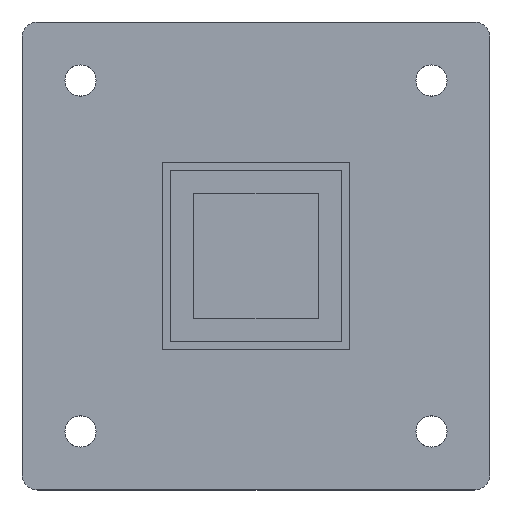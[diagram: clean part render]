
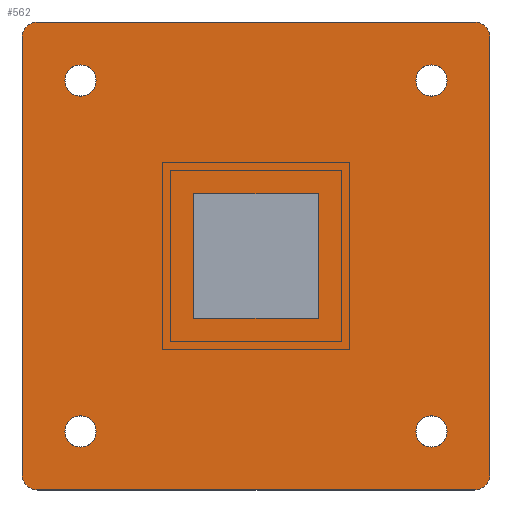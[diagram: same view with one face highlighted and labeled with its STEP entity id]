
A CAD part, top view. The second image highlights one B-rep face of the part: STEP entity #562.
In plain terms, the highlighted planar face has unit normal (0, 0, 1).
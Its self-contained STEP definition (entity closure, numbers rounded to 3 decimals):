
#266 = EDGE_CURVE( '', #288, #434, #732, .T. );
#280 = EDGE_CURVE( '', #306, #288, #746, .T. );
#288 = VERTEX_POINT( '', #755 );
#296 = EDGE_CURVE( '', #332, #306, #763, .T. );
#298 = EDGE_CURVE( '', #384, #570, #765, .T. );
#306 = VERTEX_POINT( '', #773 );
#324 = EDGE_CURVE( '', #548, #538, #794, .T. );
#328 = EDGE_CURVE( '', #362, #332, #798, .T. );
#332 = VERTEX_POINT( '', #802 );
#356 = EDGE_CURVE( '', #374, #362, #831, .T. );
#362 = VERTEX_POINT( '', #837 );
#372 = EDGE_CURVE( '', #396, #374, #848, .T. );
#374 = VERTEX_POINT( '', #850 );
#384 = VERTEX_POINT( '', #862 );
#386 = EDGE_CURVE( '', #430, #396, #864, .T. );
#392 = EDGE_CURVE( '', #534, #590, #870, .T. );
#396 = VERTEX_POINT( '', #874 );
#406 = EDGE_CURVE( '', #416, #532, #886, .T. );
#416 = VERTEX_POINT( '', #897 );
#422 = EDGE_CURVE( '', #434, #430, #904, .T. );
#430 = VERTEX_POINT( '', #913 );
#434 = VERTEX_POINT( '', #917 );
#444 = EDGE_CURVE( '', #538, #548, #929, .T. );
#446 = EDGE_CURVE( '', #590, #534, #931, .T. );
#454 = EDGE_CURVE( '', #532, #416, #939, .T. );
#462 = EDGE_CURVE( '', #570, #384, #948, .T. );
#470 = EDGE_CURVE( '', #490, #594, #956, .T. );
#486 = EDGE_CURVE( '', #528, #490, #972, .T. );
#490 = VERTEX_POINT( '', #976 );
#522 = EDGE_CURVE( '', #588, #528, #1011, .T. );
#528 = VERTEX_POINT( '', #1017 );
#532 = VERTEX_POINT( '', #1022 );
#534 = VERTEX_POINT( '', #1024 );
#538 = VERTEX_POINT( '', #1028 );
#548 = VERTEX_POINT( '', #1039 );
#562 = ADVANCED_FACE( '', ( #1053, #1054, #1055, #1056, #1057, #1058 ), #1059, .T. );
#570 = VERTEX_POINT( '', #1068 );
#586 = EDGE_CURVE( '', #594, #588, #1085, .T. );
#588 = VERTEX_POINT( '', #1087 );
#590 = VERTEX_POINT( '', #1089 );
#594 = VERTEX_POINT( '', #1094 );
#732 = CIRCLE( '', #1248, 2. );
#746 = LINE( '', #1271, #1272 );
#755 = CARTESIAN_POINT( '', ( -28., -30., 0. ) );
#763 = CIRCLE( '', #1297, 2. );
#765 = CIRCLE( '', #1300, 2. );
#773 = CARTESIAN_POINT( '', ( 28., -30., 0. ) );
#794 = CIRCLE( '', #1338, 2. );
#798 = LINE( '', #1345, #1346 );
#802 = CARTESIAN_POINT( '', ( 30., -28., 0. ) );
#831 = CIRCLE( '', #1388, 2. );
#837 = CARTESIAN_POINT( '', ( 30., 28., 0. ) );
#848 = LINE( '', #1416, #1417 );
#850 = CARTESIAN_POINT( '', ( 28., 30., 0. ) );
#862 = CARTESIAN_POINT( '', ( -24.5, 22.5, 0. ) );
#864 = CIRCLE( '', #1438, 2. );
#870 = CIRCLE( '', #1447, 2. );
#874 = CARTESIAN_POINT( '', ( -28., 30., 0. ) );
#886 = CIRCLE( '', #1468, 2. );
#897 = CARTESIAN_POINT( '', ( -24.5, -22.5, 0. ) );
#904 = LINE( '', #1493, #1494 );
#913 = CARTESIAN_POINT( '', ( -30., 28., 0. ) );
#917 = CARTESIAN_POINT( '', ( -30., -28., 0. ) );
#929 = CIRCLE( '', #1530, 2. );
#931 = CIRCLE( '', #1533, 2. );
#939 = CIRCLE( '', #1543, 2. );
#948 = CIRCLE( '', #1555, 2. );
#956 = LINE( '', #1570, #1571 );
#972 = LINE( '', #1594, #1595 );
#976 = CARTESIAN_POINT( '', ( 8., 8., 0. ) );
#1011 = LINE( '', #1653, #1654 );
#1017 = CARTESIAN_POINT( '', ( -8., 8., 0. ) );
#1022 = CARTESIAN_POINT( '', ( -20.5, -22.5, 0. ) );
#1024 = CARTESIAN_POINT( '', ( 20.5, 22.5, 0. ) );
#1028 = CARTESIAN_POINT( '', ( 24.5, -22.5, 0. ) );
#1039 = CARTESIAN_POINT( '', ( 20.5, -22.5, 0. ) );
#1053 = FACE_BOUND( '', #1707, .T. );
#1054 = FACE_OUTER_BOUND( '', #1708, .T. );
#1055 = FACE_BOUND( '', #1709, .T. );
#1056 = FACE_BOUND( '', #1710, .T. );
#1057 = FACE_BOUND( '', #1711, .T. );
#1058 = FACE_BOUND( '', #1712, .T. );
#1059 = PLANE( '', #1713 );
#1068 = CARTESIAN_POINT( '', ( -20.5, 22.5, 0. ) );
#1085 = LINE( '', #1750, #1751 );
#1087 = CARTESIAN_POINT( '', ( -8., -8., 0. ) );
#1089 = CARTESIAN_POINT( '', ( 24.5, 22.5, 0. ) );
#1094 = CARTESIAN_POINT( '', ( 8., -8., 0. ) );
#1248 = AXIS2_PLACEMENT_3D( '', #1937, #1938, #1939 );
#1271 = CARTESIAN_POINT( '', ( -28., -30., 0. ) );
#1272 = VECTOR( '', #1944, 1. );
#1297 = AXIS2_PLACEMENT_3D( '', #1959, #1960, #1961 );
#1300 = AXIS2_PLACEMENT_3D( '', #1962, #1963, #1964 );
#1338 = AXIS2_PLACEMENT_3D( '', #1989, #1990, #1991 );
#1345 = CARTESIAN_POINT( '', ( 30., -28., 0. ) );
#1346 = VECTOR( '', #1993, 1. );
#1388 = AXIS2_PLACEMENT_3D( '', #2034, #2035, #2036 );
#1416 = CARTESIAN_POINT( '', ( 28., 30., 0. ) );
#1417 = VECTOR( '', #2050, 1. );
#1438 = AXIS2_PLACEMENT_3D( '', #2069, #2070, #2071 );
#1447 = AXIS2_PLACEMENT_3D( '', #2073, #2074, #2075 );
#1468 = AXIS2_PLACEMENT_3D( '', #2094, #2095, #2096 );
#1493 = CARTESIAN_POINT( '', ( -30., 28., 0. ) );
#1494 = VECTOR( '', #2116, 1. );
#1530 = AXIS2_PLACEMENT_3D( '', #2146, #2147, #2148 );
#1533 = AXIS2_PLACEMENT_3D( '', #2149, #2150, #2151 );
#1543 = AXIS2_PLACEMENT_3D( '', #2155, #2156, #2157 );
#1555 = AXIS2_PLACEMENT_3D( '', #2167, #2168, #2169 );
#1570 = CARTESIAN_POINT( '', ( 8., 4., 0. ) );
#1571 = VECTOR( '', #2173, 1. );
#1594 = CARTESIAN_POINT( '', ( -4., 8., 0. ) );
#1595 = VECTOR( '', #2177, 1. );
#1653 = CARTESIAN_POINT( '', ( -8., -4., 0. ) );
#1654 = VECTOR( '', #2211, 1. );
#1707 = EDGE_LOOP( '', ( #2237, #2238, #2239, #2240 ) );
#1708 = EDGE_LOOP( '', ( #2241, #2242, #2243, #2244, #2245, #2246, #2247, #2248 ) );
#1709 = EDGE_LOOP( '', ( #2249, #2250 ) );
#1710 = EDGE_LOOP( '', ( #2251, #2252 ) );
#1711 = EDGE_LOOP( '', ( #2253, #2254 ) );
#1712 = EDGE_LOOP( '', ( #2255, #2256 ) );
#1713 = AXIS2_PLACEMENT_3D( '', #2257, #2258, #2259 );
#1750 = CARTESIAN_POINT( '', ( 4., -8., 0. ) );
#1751 = VECTOR( '', #2281, 1. );
#1937 = CARTESIAN_POINT( '', ( -28., -28., 0. ) );
#1938 = DIRECTION( '', ( 0., 0., -1. ) );
#1939 = DIRECTION( '', ( -1., 0., 0. ) );
#1944 = DIRECTION( '', ( -1., 0., 0. ) );
#1959 = CARTESIAN_POINT( '', ( 28., -28., 0. ) );
#1960 = DIRECTION( '', ( 0., 0., -1. ) );
#1961 = DIRECTION( '', ( 0., -1., 0. ) );
#1962 = CARTESIAN_POINT( '', ( -22.5, 22.5, 0. ) );
#1963 = DIRECTION( '', ( 0., 0., 1. ) );
#1964 = DIRECTION( '', ( 1., 0., 0. ) );
#1989 = CARTESIAN_POINT( '', ( 22.5, -22.5, 0. ) );
#1990 = DIRECTION( '', ( 0., 0., 1. ) );
#1991 = DIRECTION( '', ( 1., 0., 0. ) );
#1993 = DIRECTION( '', ( 0., -1., 0. ) );
#2034 = CARTESIAN_POINT( '', ( 28., 28., 0. ) );
#2035 = DIRECTION( '', ( 0., 0., -1. ) );
#2036 = DIRECTION( '', ( 1., 0., 0. ) );
#2050 = DIRECTION( '', ( 1., 0., 0. ) );
#2069 = CARTESIAN_POINT( '', ( -28., 28., 0. ) );
#2070 = DIRECTION( '', ( 0., 0., -1. ) );
#2071 = DIRECTION( '', ( 0., 1., 0. ) );
#2073 = CARTESIAN_POINT( '', ( 22.5, 22.5, 0. ) );
#2074 = DIRECTION( '', ( 0., 0., 1. ) );
#2075 = DIRECTION( '', ( 1., 0., 0. ) );
#2094 = CARTESIAN_POINT( '', ( -22.5, -22.5, 0. ) );
#2095 = DIRECTION( '', ( 0., 0., 1. ) );
#2096 = DIRECTION( '', ( 1., 0., 0. ) );
#2116 = DIRECTION( '', ( 0., 1., 0. ) );
#2146 = CARTESIAN_POINT( '', ( 22.5, -22.5, 0. ) );
#2147 = DIRECTION( '', ( 0., 0., 1. ) );
#2148 = DIRECTION( '', ( 1., 0., 0. ) );
#2149 = CARTESIAN_POINT( '', ( 22.5, 22.5, 0. ) );
#2150 = DIRECTION( '', ( 0., 0., 1. ) );
#2151 = DIRECTION( '', ( 1., 0., 0. ) );
#2155 = CARTESIAN_POINT( '', ( -22.5, -22.5, 0. ) );
#2156 = DIRECTION( '', ( 0., 0., 1. ) );
#2157 = DIRECTION( '', ( 1., 0., 0. ) );
#2167 = CARTESIAN_POINT( '', ( -22.5, 22.5, 0. ) );
#2168 = DIRECTION( '', ( 0., 0., 1. ) );
#2169 = DIRECTION( '', ( 1., 0., 0. ) );
#2173 = DIRECTION( '', ( 0., -1., 0. ) );
#2177 = DIRECTION( '', ( 1., 0., 0. ) );
#2211 = DIRECTION( '', ( 0., 1., 0. ) );
#2237 = ORIENTED_EDGE( '', *, *, #486, .T. );
#2238 = ORIENTED_EDGE( '', *, *, #470, .T. );
#2239 = ORIENTED_EDGE( '', *, *, #586, .T. );
#2240 = ORIENTED_EDGE( '', *, *, #522, .T. );
#2241 = ORIENTED_EDGE( '', *, *, #422, .F. );
#2242 = ORIENTED_EDGE( '', *, *, #266, .F. );
#2243 = ORIENTED_EDGE( '', *, *, #280, .F. );
#2244 = ORIENTED_EDGE( '', *, *, #296, .F. );
#2245 = ORIENTED_EDGE( '', *, *, #328, .F. );
#2246 = ORIENTED_EDGE( '', *, *, #356, .F. );
#2247 = ORIENTED_EDGE( '', *, *, #372, .F. );
#2248 = ORIENTED_EDGE( '', *, *, #386, .F. );
#2249 = ORIENTED_EDGE( '', *, *, #444, .F. );
#2250 = ORIENTED_EDGE( '', *, *, #324, .F. );
#2251 = ORIENTED_EDGE( '', *, *, #446, .F. );
#2252 = ORIENTED_EDGE( '', *, *, #392, .F. );
#2253 = ORIENTED_EDGE( '', *, *, #454, .F. );
#2254 = ORIENTED_EDGE( '', *, *, #406, .F. );
#2255 = ORIENTED_EDGE( '', *, *, #462, .F. );
#2256 = ORIENTED_EDGE( '', *, *, #298, .F. );
#2257 = CARTESIAN_POINT( '', ( 0., 0., 0. ) );
#2258 = DIRECTION( '', ( 0., 0., 1. ) );
#2259 = DIRECTION( '', ( 1., 0., 0. ) );
#2281 = DIRECTION( '', ( -1., 0., 0. ) );
